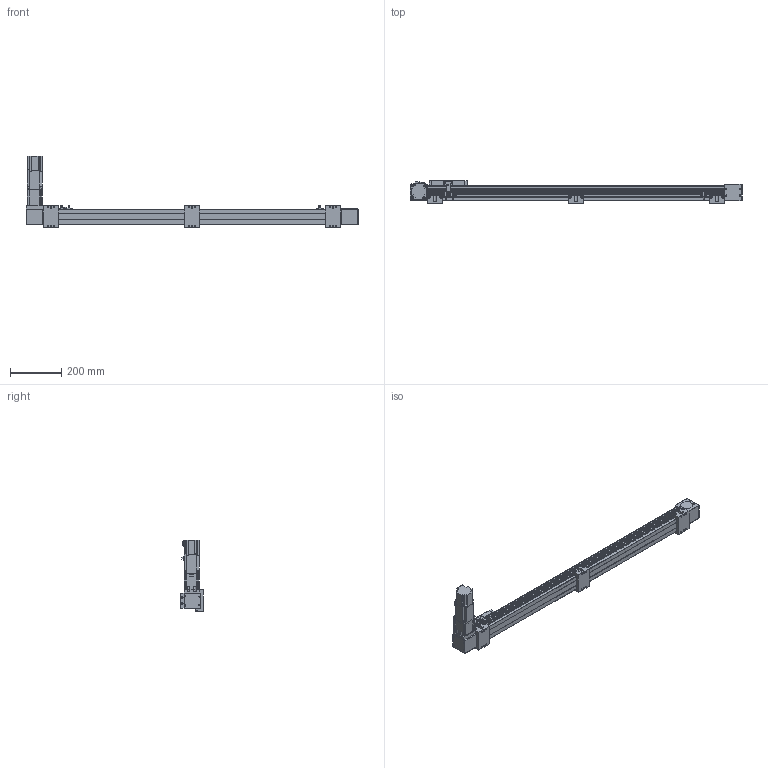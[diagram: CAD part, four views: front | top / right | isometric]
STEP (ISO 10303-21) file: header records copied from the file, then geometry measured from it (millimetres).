
FILE_DESCRIPTION(/* description */ ('STEP AP203'),/* implementation_level */ '2;1');
FILE_NAME(/* name */ 'SK60-P13-S1000-BL-T40-C1-N(0)',/* time_stamp */ '2023-04-06T03:36:36+02:00',/* author */ ('License CC BY-ND 4.0'),/* organization */ ('CADENAS'),/* preprocessor_version */ 'ST-DEVELOPER v19.3',/* originating_system */ 'PARTsolutions',/* authorisation */ ' ');
FILE_SCHEMA (('CONFIG_CONTROL_DESIGN'));
Length unit declared in the file: millimetre
Products named in the file (11): SK60-P13-S1000-BL-T40-C1-N(0); PSC140-sensor; SK60-S450_seat; SK60-S450-BL-C1_slider; SK60_body3; SK60_body6; SK60-BL_body2; T40-p1; SK60_body5; SK60_body4; SK60-S1000-BL-C1_body
Assembly tree (18 placements, depth 2):
  SK60-P13-S1000-BL-T40-C1-N(0)
    PSC140-sensor  x3
    SK60-S450_seat  x3
    SK60-S450-BL-C1_slider
    SK60_body3  x3
    SK60_body6  x2
    SK60-BL_body2  x2
    T40-p1
    SK60_body5
    SK60_body4
    SK60-S1000-BL-C1_body
Bounding box: 1300 x 90 x 278.2 mm (x, y, z)
Volume: 5059155.1 mm3; surface area: 688579.2 mm2
Topology: 18 solids, 22 shells, 878 faces, 2207 edges, 1458 vertices
Faces by surface type: plane 568, cylinder 282, cone 26, torus 2
Full cylindrical faces by diameter (mm): 2.8 x3, 3.3 x4, 4.2 x8, 4.5 x26, 4.6 x3, 4.917 x20, 5 x2, 5.478 x4, 5.5 x23, 6.5 x6, 8 x4, 8.5 x4, 9.988 x4, 10 x12, 13.556 x1, 14 x1, 14.586 x1, 19.692 x1, 38.432 x2, 43 x1, 44 x3, 47 x2, 50 x2
Entity records: 19379 total; most frequent: DIRECTION 3294, CARTESIAN_POINT 3290, ORIENTED_EDGE 3050, EDGE_CURVE 1525, AXIS2_PLACEMENT_3D 1101, LINE 1092, VECTOR 1092, VERTEX_POINT 1077
